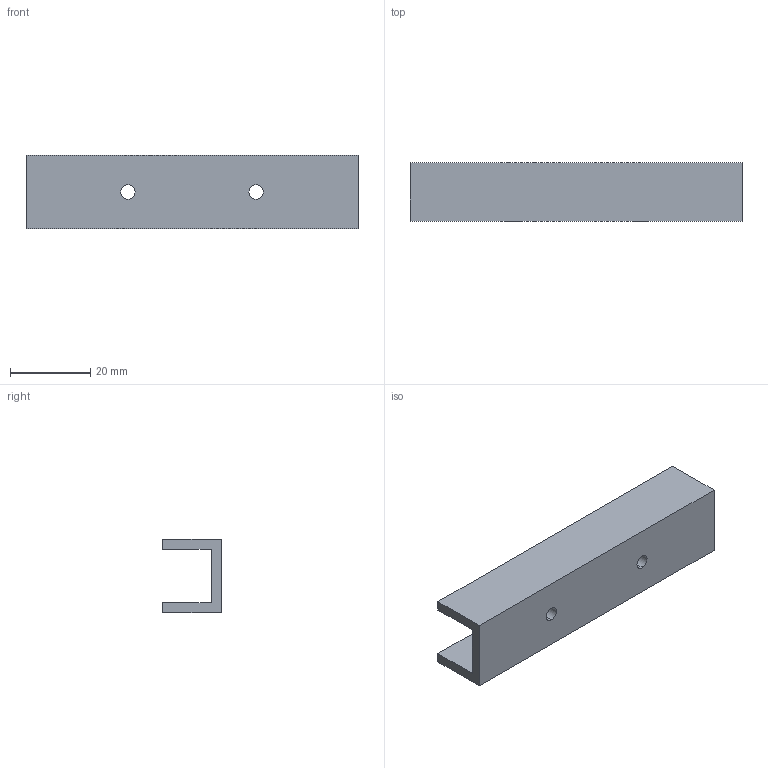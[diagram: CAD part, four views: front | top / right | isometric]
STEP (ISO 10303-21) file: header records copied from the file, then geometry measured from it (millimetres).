
FILE_DESCRIPTION (( 'STEP AP214' ), '1' );
FILE_NAME ('5070_V01_POCKET_PASS-THRU_SGL_CLIP_SER.STEP', '2025-07-07T17:35:32', ( '' ), ( '' ), 'SwSTEP 2.0', 'SolidWorks 2025', '' );
FILE_SCHEMA (( 'AUTOMOTIVE_DESIGN' ));
Length unit declared in the file: inch
Products named in the file (1): 5070_V01_POCKET_PASS-THRU_SGL_CLIP_SER
Bounding box: 82.85 x 14.61 x 18.41 mm (x, y, z)
Volume: 8903.1 mm3; surface area: 7704.1 mm2
Topology: 1 solids, 1 shells, 14 faces, 36 edges, 24 vertices
Faces by surface type: plane 10, cylinder 4
Entity records: 463 total; most frequent: CARTESIAN_POINT 75, DIRECTION 74, ORIENTED_EDGE 72, EDGE_CURVE 36, VECTOR 28, LINE 28, VERTEX_POINT 24, AXIS2_PLACEMENT_3D 23
